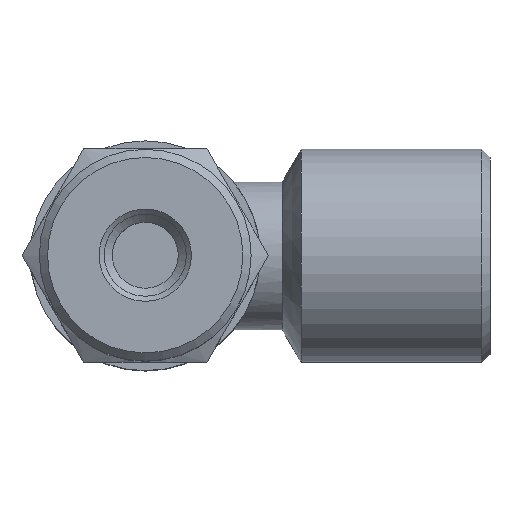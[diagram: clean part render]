
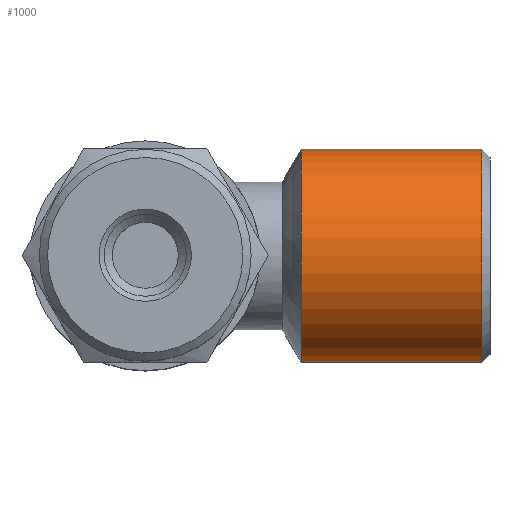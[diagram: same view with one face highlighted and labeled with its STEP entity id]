
A CAD part, top view. The second image highlights one B-rep face of the part: STEP entity #1000.
In plain terms, the highlighted cylindrical face has radius 6.5 mm (diameter 13 mm), a full revolution.
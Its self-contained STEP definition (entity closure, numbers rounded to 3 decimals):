
#1000=ADVANCED_FACE('', (#1010,#1020), #1030, .T.);
#5660=AXIS2_PLACEMENT_3D('Ax2Pl3d', #5670, #5680, #5690);
#5700=AXIS2_PLACEMENT_3D('Ax2Pl3d', #5710, #5720, #5730);
#5740=AXIS2_PLACEMENT_3D('Ax2Pl3d', #5750, #5760, #5770);
#5670=CARTESIAN_POINT('HicPkt', (25.378,0.,
20.514));
#53190=CARTESIAN_POINT('', (25.378,-6.5,20.514));
#5710=CARTESIAN_POINT('HicPkt', (36.378,0.,
20.514));
#5750=CARTESIAN_POINT('HicPkt', (36.378,0.,
20.514));
#53200=CARTESIAN_POINT('', (36.378,-6.5,20.514));
#54490=CIRCLE('Circle', #5660, 6.5);
#54500=CIRCLE('Circle', #5740, 6.5);
#1030=CYLINDRICAL_SURFACE('Zyl', #5700, 6.5);
#5680=DIRECTION('Axis', (-1.,0.,0.)
);
#5690=DIRECTION('RefDirection', (0.,
0.,-1.));
#5720=DIRECTION('Axis', (-1.,0.,0.))
;
#5730=DIRECTION('RefDirection', (0.,
0.,-1.));
#5760=DIRECTION('Axis', (-1.,0.,0.)
);
#5770=DIRECTION('RefDirection', (0.,
0.,-1.));
#59970=EDGE_CURVE('', #59980, #59980, #54490, .T.);
#59990=EDGE_CURVE('', #60000, #60000, #54500, .T.);
#63110=EDGE_LOOP('Edge_loop', (#63120));
#63130=EDGE_LOOP('Edge_loop', (#63140));
#1020=FACE_BOUND('', #63130, .T.);
#1010=FACE_OUTER_BOUND('Face_outer_bound', #63110, .T.);
#63120=ORIENTED_EDGE('', *, *, #59970, .F.);
#63140=ORIENTED_EDGE('', *, *, #59990, .T.);
#59980=VERTEX_POINT('', #53190);
#60000=VERTEX_POINT('', #53200);
